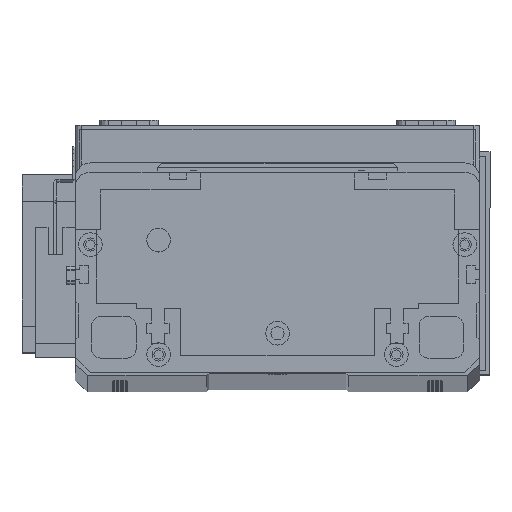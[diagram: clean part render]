
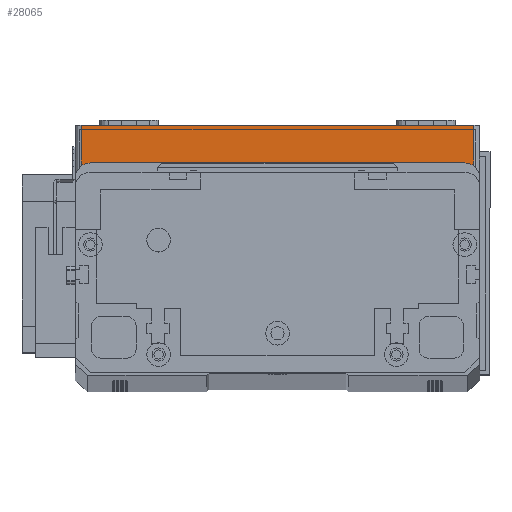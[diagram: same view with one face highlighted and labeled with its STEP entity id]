
A CAD part, top view. The second image highlights one B-rep face of the part: STEP entity #28065.
In plain terms, the highlighted planar face has unit normal (0, 0, 1) as drawn and (0, -1, 0) by its records, which use the part's own axes.
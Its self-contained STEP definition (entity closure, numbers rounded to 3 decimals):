
#29 = FACE_OUTER_BOUND ( 'NONE', #25201, .T. ) ;
#561 = CARTESIAN_POINT ( 'NONE',  ( 134., 0., 19.5 ) ) ;
#709 = ORIENTED_EDGE ( 'NONE', *, *, #13243, .F. ) ;
#3064 = VECTOR ( 'NONE', #21226, 1000. ) ;
#4481 = ORIENTED_EDGE ( 'NONE', *, *, #26317, .T. ) ;
#7160 = DIRECTION ( 'NONE',  ( 0., 1., 0. ) ) ;
#7252 = ORIENTED_EDGE ( 'NONE', *, *, #23236, .T. ) ;
#10406 = VERTEX_POINT ( 'NONE', #16132 ) ;
#10643 = VECTOR ( 'NONE', #29143, 1000. ) ;
#12072 = VERTEX_POINT ( 'NONE', #561 ) ;
#13243 = EDGE_CURVE ( 'NONE', #30630, #12072, #29452, .T. ) ;
#14837 = ORIENTED_EDGE ( 'NONE', *, *, #23916, .T. ) ;
#16132 = CARTESIAN_POINT ( 'NONE',  ( 2., 0., 0. ) ) ;
#16860 = PLANE ( 'NONE',  #31062 ) ;
#17120 = LINE ( 'NONE', #19601, #10643 ) ;
#18070 = CARTESIAN_POINT ( 'NONE',  ( 2., 0., 19.5 ) ) ;
#18790 = CARTESIAN_POINT ( 'NONE',  ( 0., 0., 19.5 ) ) ;
#19585 = CARTESIAN_POINT ( 'NONE',  ( 2., 0., 19.5 ) ) ;
#19601 = CARTESIAN_POINT ( 'NONE',  ( 134., 0., 19.5 ) ) ;
#21226 = DIRECTION ( 'NONE',  ( 1., 0., 0. ) ) ;
#22143 = VECTOR ( 'NONE', #29911, 1000. ) ;
#22377 = CARTESIAN_POINT ( 'NONE',  ( 0., 0., 0. ) ) ;
#23236 = EDGE_CURVE ( 'NONE', #24802, #12072, #17120, .T. ) ;
#23916 = EDGE_CURVE ( 'NONE', #10406, #24802, #25278, .T. ) ;
#23971 = CARTESIAN_POINT ( 'NONE',  ( 0., 0., 19.5 ) ) ;
#24062 = DIRECTION ( 'NONE',  ( 0., 0., 1. ) ) ;
#24538 = VECTOR ( 'NONE', #27191, 1000. ) ;
#24802 = VERTEX_POINT ( 'NONE', #28791 ) ;
#25201 = EDGE_LOOP ( 'NONE', ( #709, #4481, #14837, #7252 ) ) ;
#25278 = LINE ( 'NONE', #22377, #24538 ) ;
#26317 = EDGE_CURVE ( 'NONE', #30630, #10406, #28482, .T. ) ;
#27191 = DIRECTION ( 'NONE',  ( 1., 0., 0. ) ) ;
#28065 = ADVANCED_FACE ( 'NONE', ( #29 ), #16860, .F. ) ;
#28482 = LINE ( 'NONE', #18070, #22143 ) ;
#28791 = CARTESIAN_POINT ( 'NONE',  ( 134., 0., 0. ) ) ;
#29143 = DIRECTION ( 'NONE',  ( 0., 0., 1. ) ) ;
#29452 = LINE ( 'NONE', #18790, #3064 ) ;
#29911 = DIRECTION ( 'NONE',  ( 0., 0., -1. ) ) ;
#30630 = VERTEX_POINT ( 'NONE', #19585 ) ;
#31062 = AXIS2_PLACEMENT_3D ( 'NONE', #23971, #7160, #24062 ) ;
